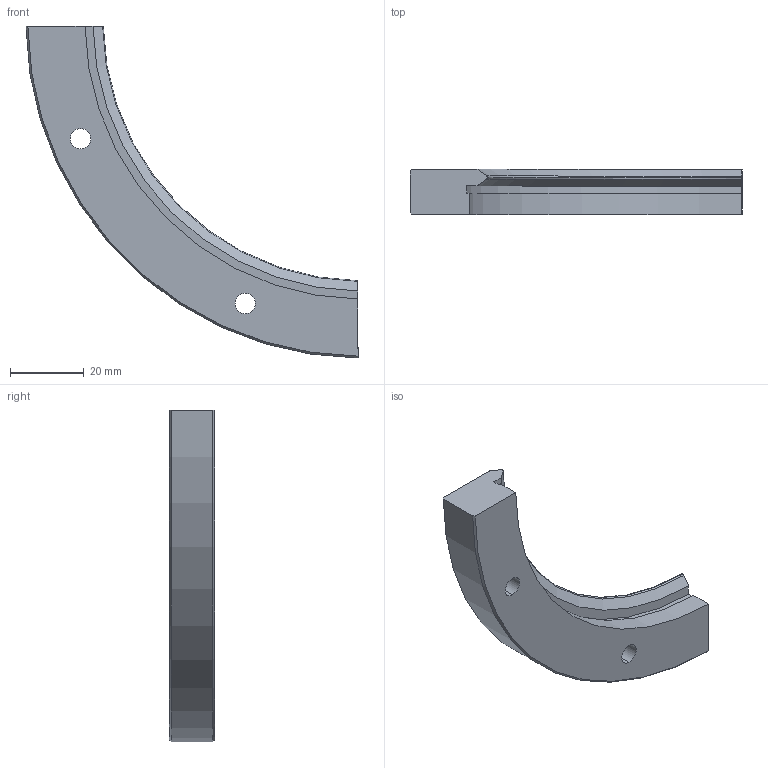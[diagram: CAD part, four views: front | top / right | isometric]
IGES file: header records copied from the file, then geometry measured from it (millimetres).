
Start section: 3D InterOp IGES (v. 2020 1.0.1), Spatial Corp. Copyright (c) 1999-2017.
Global section: file name: ris_182_r90.igs; native system: Spatial Corp.; preprocessor: 3D InterOp ACIS/IGES; author: TraceParts; organization: TraceParts S.A.; date: 20220624.060307; units: millimetre
Bounding box: 89.99 x 12.25 x 89.99 mm (x, y, z)
Surface area: 8983.1 mm2 (no closed solid volume)
Topology: 0 solids, 0 shells, 25 faces, 126 edges, 126 vertices
Faces by surface type: revolution 17, extrusion 8
